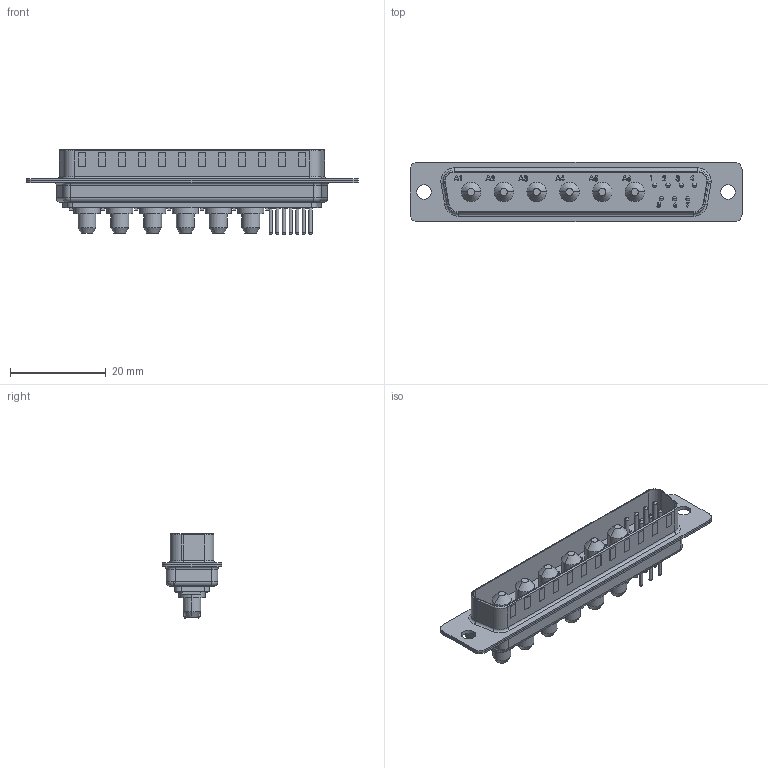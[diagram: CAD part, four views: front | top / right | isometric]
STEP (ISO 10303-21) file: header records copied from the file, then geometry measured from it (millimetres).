
FILE_DESCRIPTION (( 'STEP AP203' ), '1' );
FILE_NAME ('681M13W6103L001.STEP', '2013-12-12T03:31:52', ( '' ), ( '' ), 'SwSTEP 2.0', 'SolidWorks 2012', '' );
FILE_SCHEMA (( 'CONFIG_CONTROL_DESIGN' ));
Products named in the file (1): 681M13W6103L001
Bounding box: 69.39 x 12.5 x 17.73 mm (x, y, z)
Volume: 4698.6 mm3; surface area: 4940.6 mm2
Topology: 1 solids, 1 shells, 923 faces, 2344 edges, 1529 vertices
Faces by surface type: plane 580, bspline 140, cylinder 130, sphere 28, cone 24, torus 21
Entity records: 34297 total; most frequent: CARTESIAN_POINT 12885, ORIENTED_EDGE 4576, DIRECTION 3916, EDGE_CURVE 2288, VECTOR 1668, LINE 1668, VERTEX_POINT 1501, AXIS2_PLACEMENT_3D 1124
